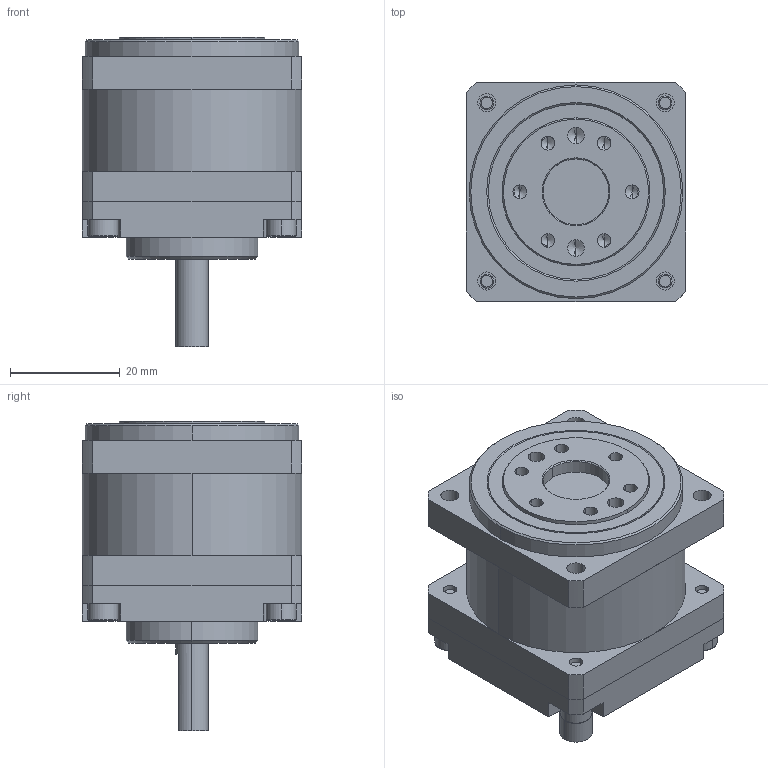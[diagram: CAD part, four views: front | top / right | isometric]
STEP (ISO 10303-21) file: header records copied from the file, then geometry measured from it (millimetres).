
FILE_DESCRIPTION (( 'STEP AP214' ), '1' );
FILE_NAME ('CSF-11-xxx-1U-E.STEP', '2022-05-09T12:16:11', ( 'PC' ), ( 'Microsoft' ), 'SwSTEP 2.0', 'SolidWorks 2016', '' );
FILE_SCHEMA (( 'AUTOMOTIVE_DESIGN' ));
Length unit declared in the file: millimetre
Products named in the file (22): 深沟球轴承 WA637SA_預設; 柔性轴承27.262X20.73X4.8X4.6_預設; CSF-11-04-1U_蕼偞; 内六角螺钉  M2.5×8_預設; CSF-11-05-1U_蕼偞; 种隊 2x8_蕼偞; CSF-11-03-1U_蕼偞; CSF-11蝠脫粣創_蕼偞; 外径27x1.0  O型圈_預設; M1.6-蹟隊_蕼偞; CSF-11-蝠脫粣創黑芛; CSF-11-交叉轴承内圈; CSF-11-交叉轴承外圈; CSF-11-1U-褲极_蕼偞; CSF-11-02-1U_蕼偞; 囀鞠褒蹟隊 M3℅8_蕼偞; CSF-11-01-1U_蕼偞; 十字槽沉头螺钉  M1.6×4_預設; CSF-11-06-1U_蕼偞; CSF-11-xxx-1U-E; CSF-11-1U-疏楷汜ん_蕼偞; 旮僱⑩粣創 696_蕼偞
Assembly tree (36 placements, depth 3):
  CSF-11-xxx-1U-E
    CSF-11-1U-褲极_蕼偞
      CSF-11-01-1U_蕼偞
      CSF-11-02-1U_蕼偞
    CSF-11蝠脫粣創_蕼偞
      CSF-11-交叉轴承外圈
      CSF-11-交叉轴承内圈
      CSF-11-蝠脫粣創黑芛
      M1.6-蹟隊_蕼偞
      外径27x1.0  O型圈_預設
    CSF-11-03-1U_蕼偞
    种隊 2x8_蕼偞  x3
    CSF-11-05-1U_蕼偞
    内六角螺钉  M2.5×8_預設  x6
    CSF-11-1U-疏楷汜ん_蕼偞
      CSF-11-04-1U_蕼偞
      柔性轴承27.262X20.73X4.8X4.6_預設
      深沟球轴承 WA637SA_預設
      旮僱⑩粣創 696_蕼偞
    CSF-11-06-1U_蕼偞
    十字槽沉头螺钉  M1.6×4_預設  x6
    囀鞠褒蹟隊 M3℅8_蕼偞  x4
Bounding box: 40 x 40 x 56.5 mm (x, y, z)
Volume: 42512.1 mm3; surface area: 35780.1 mm2
Topology: 62 solids, 62 shells, 1315 faces, 2957 edges, 1730 vertices
Faces by surface type: plane 476, cylinder 419, bspline 196, cone 168, torus 56
Entity records: 30216 total; most frequent: CARTESIAN_POINT 9007, DIRECTION 4143, ORIENTED_EDGE 3938, EDGE_CURVE 1969, AXIS2_PLACEMENT_3D 1769, VERTEX_POINT 1251, EDGE_LOOP 1082, CIRCLE 982
